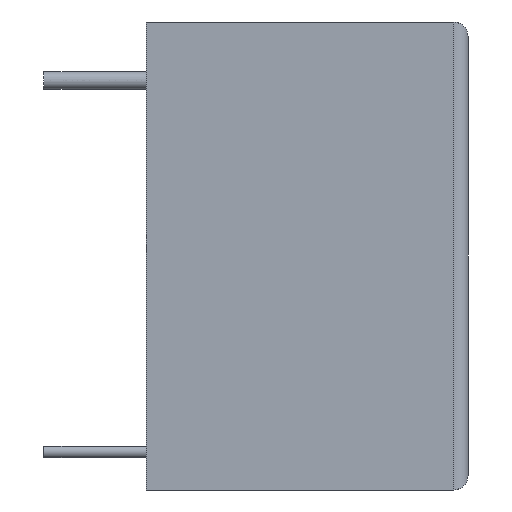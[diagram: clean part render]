
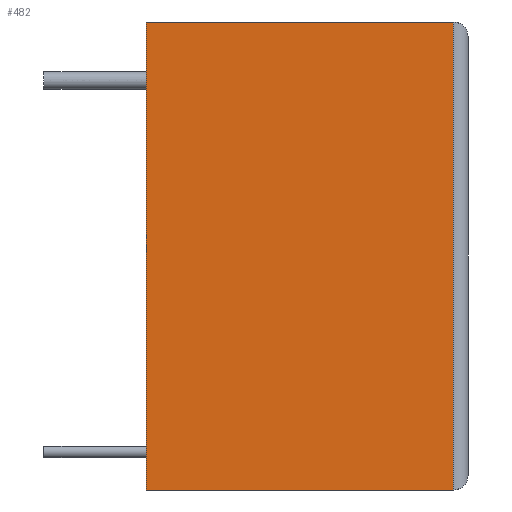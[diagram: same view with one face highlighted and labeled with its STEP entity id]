
A CAD part, left-side view. The second image highlights one B-rep face of the part: STEP entity #482.
In plain terms, the highlighted planar face has unit normal (-1, 0, 0).
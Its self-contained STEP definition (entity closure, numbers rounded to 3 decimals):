
#35 = CARTESIAN_POINT ( 'NONE',  ( 0., 11., 0. ) ) ;
#46 = LINE ( 'NONE', #855, #181 ) ;
#70 = LINE ( 'NONE', #875, #718 ) ;
#76 = AXIS2_PLACEMENT_3D ( 'NONE', #515, #431, #339 ) ;
#130 = LINE ( 'NONE', #35, #360 ) ;
#181 = VECTOR ( 'NONE', #756, 1000. ) ;
#286 = EDGE_CURVE ( 'NONE', #788, #828, #130, .T. ) ;
#303 = VERTEX_POINT ( 'NONE', #389 ) ;
#309 = DIRECTION ( 'NONE',  ( 0., 0., 1. ) ) ;
#339 = DIRECTION ( 'NONE',  ( 0., 0., -1. ) ) ;
#360 = VECTOR ( 'NONE', #847, 1000. ) ;
#389 = CARTESIAN_POINT ( 'NONE',  ( 0., 11., -16. ) ) ;
#391 = CARTESIAN_POINT ( 'NONE',  ( 0., 0.5, 0. ) ) ;
#431 = DIRECTION ( 'NONE',  ( 1., 0., 0. ) ) ;
#448 = FACE_OUTER_BOUND ( 'NONE', #808, .T. ) ;
#455 = VECTOR ( 'NONE', #309, 1000. ) ;
#464 = PLANE ( 'NONE',  #76 ) ;
#469 = EDGE_CURVE ( 'NONE', #303, #788, #46, .T. ) ;
#478 = VERTEX_POINT ( 'NONE', #832 ) ;
#481 = LINE ( 'NONE', #391, #455 ) ;
#482 = ADVANCED_FACE ( 'NONE', ( #448 ), #464, .F. ) ;
#515 = CARTESIAN_POINT ( 'NONE',  ( 0., 11., 0. ) ) ;
#549 = ORIENTED_EDGE ( 'NONE', *, *, #815, .T. ) ;
#576 = CARTESIAN_POINT ( 'NONE',  ( 0., 11., 0. ) ) ;
#586 = ORIENTED_EDGE ( 'NONE', *, *, #803, .T. ) ;
#660 = CARTESIAN_POINT ( 'NONE',  ( 0., 0.5, 0. ) ) ;
#718 = VECTOR ( 'NONE', #778, 1000. ) ;
#738 = ORIENTED_EDGE ( 'NONE', *, *, #469, .F. ) ;
#756 = DIRECTION ( 'NONE',  ( 0., 0., 1. ) ) ;
#778 = DIRECTION ( 'NONE',  ( 0., -1., 0. ) ) ;
#788 = VERTEX_POINT ( 'NONE', #576 ) ;
#803 = EDGE_CURVE ( 'NONE', #478, #828, #481, .T. ) ;
#808 = EDGE_LOOP ( 'NONE', ( #549, #586, #851, #738 ) ) ;
#815 = EDGE_CURVE ( 'NONE', #303, #478, #70, .T. ) ;
#828 = VERTEX_POINT ( 'NONE', #660 ) ;
#832 = CARTESIAN_POINT ( 'NONE',  ( 0., 0.5, -16. ) ) ;
#847 = DIRECTION ( 'NONE',  ( 0., -1., 0. ) ) ;
#851 = ORIENTED_EDGE ( 'NONE', *, *, #286, .F. ) ;
#855 = CARTESIAN_POINT ( 'NONE',  ( 0., 11., 0. ) ) ;
#875 = CARTESIAN_POINT ( 'NONE',  ( 0., 11., -16. ) ) ;
